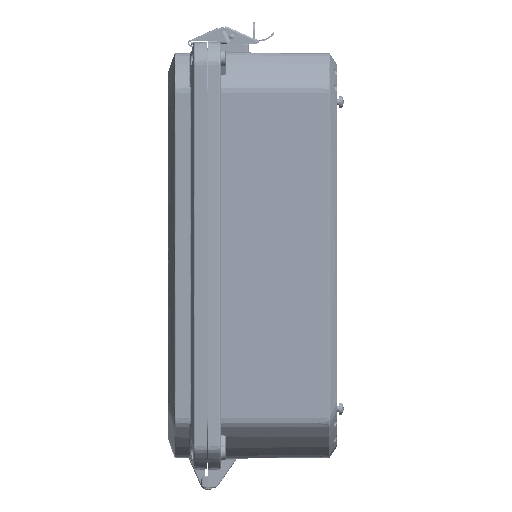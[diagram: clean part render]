
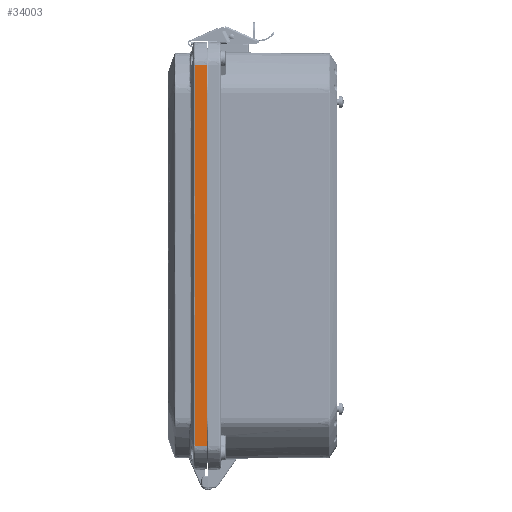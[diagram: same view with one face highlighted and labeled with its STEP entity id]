
A CAD part, left-side view. The second image highlights one B-rep face of the part: STEP entity #34003.
In plain terms, the highlighted planar face has unit normal (-0.999, 0.035, 0).
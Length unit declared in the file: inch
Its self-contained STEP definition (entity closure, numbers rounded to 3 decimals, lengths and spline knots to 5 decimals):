
#3604 = CARTESIAN_POINT ( 'NONE',  ( -7.60731, 0.36339, 5.8291 ) ) ;
#5053 = CARTESIAN_POINT ( 'NONE',  ( -7.60731, 0.36335, 5.67571 ) ) ;
#11105 = VECTOR ( 'NONE', #260386, 39.37008 ) ;
#11413 = CARTESIAN_POINT ( 'NONE',  ( -7.62, 0., -5.89046 ) ) ;
#14305 = EDGE_LOOP ( 'NONE', ( #83605, #74774, #161125, #188395, #223550 ) ) ;
#14461 = EDGE_CURVE ( 'NONE', #269537, #127892, #33227, .T. ) ;
#31609 = AXIS2_PLACEMENT_3D ( 'NONE', #84999, #43234, #175447 ) ;
#33227 = B_SPLINE_CURVE_WITH_KNOTS ( 'NONE', 3,
 ( #89919, #181792, #51042, #3604, #92779, #5053, #176083, #263879, #265308, #157446, #248032, #91355, #245171 ),
 .UNSPECIFIED., .F., .F.,
 ( 4, 2, 1, 1, 1, 1, 1, 2, 4 ),
 ( 0., 0.00117, 0.00234, 0.00468, 0.00935, 0.0187, 0.0374, 0.07481, 0.14962 ),
 .UNSPECIFIED. ) ;
#34003 = ADVANCED_FACE ( 'NONE', ( #282006 ), #64835, .T. ) ;
#43234 = DIRECTION ( 'NONE',  ( -0.999, 0.035, 0. ) ) ;
#44828 = CARTESIAN_POINT ( 'NONE',  ( -7.60732, 0.36315, -3.4361 ) ) ;
#47724 = CARTESIAN_POINT ( 'NONE',  ( -7.60731, 0.36335, -5.67571 ) ) ;
#51042 = CARTESIAN_POINT ( 'NONE',  ( -7.60731, 0.3634, 5.85978 ) ) ;
#52512 = DIRECTION ( 'NONE',  ( 0., 0., 1. ) ) ;
#64835 = PLANE ( 'NONE',  #31609 ) ;
#66451 = CARTESIAN_POINT ( 'NONE',  ( -7.60731, 0.36335, -0.98174 ) ) ;
#68798 = EDGE_CURVE ( 'NONE', #158013, #130349, #174000, .T. ) ;
#69332 = CARTESIAN_POINT ( 'NONE',  ( -7.60731, 0.36331, -5.46095 ) ) ;
#74774 = ORIENTED_EDGE ( 'NONE', *, *, #134100, .T. ) ;
#75506 = CARTESIAN_POINT ( 'NONE',  ( -7.62, 0., -5.89046 ) ) ;
#80584 = VECTOR ( 'NONE', #256322, 39.37008 ) ;
#83605 = ORIENTED_EDGE ( 'NONE', *, *, #14461, .T. ) ;
#84999 = CARTESIAN_POINT ( 'NONE',  ( -7.62, 0., -5.89046 ) ) ;
#89919 = CARTESIAN_POINT ( 'NONE',  ( -7.60733, 0.36296, 5.89046 ) ) ;
#91355 = CARTESIAN_POINT ( 'NONE',  ( -7.60731, 0.36335, 0.98174 ) ) ;
#92779 = CARTESIAN_POINT ( 'NONE',  ( -7.60731, 0.36338, 5.78309 ) ) ;
#100168 = CARTESIAN_POINT ( 'NONE',  ( -7.60733, 0.36296, -5.89046 ) ) ;
#100782 = CARTESIAN_POINT ( 'NONE',  ( -7.60731, 0.36339, -5.8291 ) ) ;
#124020 = LINE ( 'NONE', #279308, #80584 ) ;
#127892 = VERTEX_POINT ( 'NONE', #269664 ) ;
#130349 = VERTEX_POINT ( 'NONE', #11413 ) ;
#131971 = B_SPLINE_CURVE_WITH_KNOTS ( 'NONE', 3,
 ( #138288, #66451, #154113, #44828, #132579, #220244, #266306, #69332, #47724, #135456, #100782, #232992, #204346, #253227 ),
 .UNSPECIFIED., .F., .F.,
 ( 4, 2, 2, 1, 1, 1, 1, 2, 4 ),
 ( 0., 0.07481, 0.11221, 0.13092, 0.14027, 0.14494, 0.14728, 0.14845, 0.14962 ),
 .UNSPECIFIED. ) ;
#132579 = CARTESIAN_POINT ( 'NONE',  ( -7.60732, 0.36314, -3.92698 ) ) ;
#134100 = EDGE_CURVE ( 'NONE', #127892, #158013, #131971, .T. ) ;
#135456 = CARTESIAN_POINT ( 'NONE',  ( -7.60731, 0.36338, -5.78308 ) ) ;
#138288 = CARTESIAN_POINT ( 'NONE',  ( -7.60731, 0.36337, 0. ) ) ;
#153902 = CARTESIAN_POINT ( 'NONE',  ( -7.62, 0., -5.89046 ) ) ;
#154113 = CARTESIAN_POINT ( 'NONE',  ( -7.60732, 0.36322, -1.96349 ) ) ;
#156354 = EDGE_CURVE ( 'NONE', #269537, #206345, #124020, .T. ) ;
#157446 = CARTESIAN_POINT ( 'NONE',  ( -7.60732, 0.36315, 3.4361 ) ) ;
#158013 = VERTEX_POINT ( 'NONE', #100168 ) ;
#161125 = ORIENTED_EDGE ( 'NONE', *, *, #68798, .T. ) ;
#174000 = LINE ( 'NONE', #153902, #11105 ) ;
#175447 = DIRECTION ( 'NONE',  ( -0.035, -0.999, 0. ) ) ;
#176083 = CARTESIAN_POINT ( 'NONE',  ( -7.60731, 0.36331, 5.46095 ) ) ;
#181792 = CARTESIAN_POINT ( 'NONE',  ( -7.60731, 0.36333, 5.87512 ) ) ;
#188395 = ORIENTED_EDGE ( 'NONE', *, *, #276212, .T. ) ;
#204346 = CARTESIAN_POINT ( 'NONE',  ( -7.60731, 0.36333, -5.87512 ) ) ;
#206345 = VERTEX_POINT ( 'NONE', #207947 ) ;
#207947 = CARTESIAN_POINT ( 'NONE',  ( -7.62, 0., 5.89046 ) ) ;
#220244 = CARTESIAN_POINT ( 'NONE',  ( -7.60732, 0.36319, -4.66328 ) ) ;
#223550 = ORIENTED_EDGE ( 'NONE', *, *, #156354, .F. ) ;
#232992 = CARTESIAN_POINT ( 'NONE',  ( -7.60731, 0.3634, -5.85978 ) ) ;
#237476 = CARTESIAN_POINT ( 'NONE',  ( -7.60733, 0.36296, 5.89046 ) ) ;
#245171 = CARTESIAN_POINT ( 'NONE',  ( -7.60731, 0.36337, 0. ) ) ;
#248032 = CARTESIAN_POINT ( 'NONE',  ( -7.60732, 0.36322, 1.96349 ) ) ;
#250881 = LINE ( 'NONE', #75506, #269837 ) ;
#253227 = CARTESIAN_POINT ( 'NONE',  ( -7.60733, 0.36296, -5.89046 ) ) ;
#256322 = DIRECTION ( 'NONE',  ( -0.035, -0.999, 0. ) ) ;
#260386 = DIRECTION ( 'NONE',  ( -0.035, -0.999, 0. ) ) ;
#263879 = CARTESIAN_POINT ( 'NONE',  ( -7.60732, 0.36323, 5.03144 ) ) ;
#265308 = CARTESIAN_POINT ( 'NONE',  ( -7.60732, 0.36314, 4.17241 ) ) ;
#266306 = CARTESIAN_POINT ( 'NONE',  ( -7.60732, 0.36323, -5.03144 ) ) ;
#269537 = VERTEX_POINT ( 'NONE', #237476 ) ;
#269664 = CARTESIAN_POINT ( 'NONE',  ( -7.60731, 0.36337, 0. ) ) ;
#269837 = VECTOR ( 'NONE', #52512, 39.37008 ) ;
#276212 = EDGE_CURVE ( 'NONE', #130349, #206345, #250881, .T. ) ;
#279308 = CARTESIAN_POINT ( 'NONE',  ( -7.62, 0., 5.89046 ) ) ;
#282006 = FACE_OUTER_BOUND ( 'NONE', #14305, .T. ) ;
